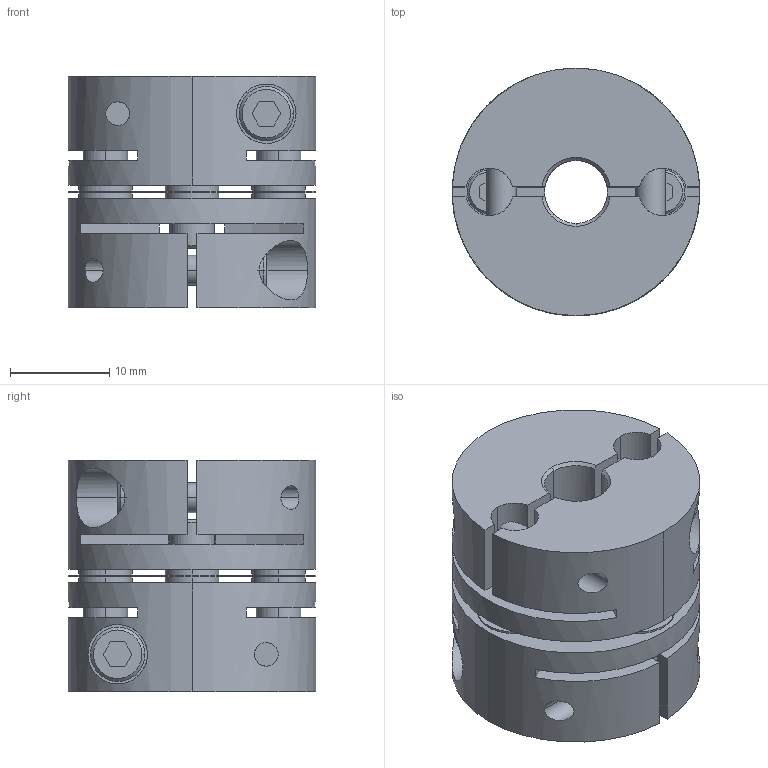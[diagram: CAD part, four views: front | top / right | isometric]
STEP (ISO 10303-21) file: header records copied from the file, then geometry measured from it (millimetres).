
FILE_DESCRIPTION((''),'2;1');
FILE_NAME('LAS-25C-6.35×8.stp','2011-08-10T10:22:42',(''),(''),'AutoCAD STEP 2000i','AutoCAD 2000i',', , ');
FILE_SCHEMA(('CONFIG_CONTROL_DESIGN'));
Length unit declared in the file: millimetre
Products named in the file (5): LAS-25C-6×6; 忣兜1; LA-2502-D06-1; LA-2502-D06; LAS25-ITA
Assembly tree (4 placements, depth 2):
  LAS-25C-6×6
    忣兜1
    LA-2502-D06-1
    LA-2502-D06
    LAS25-ITA
Bounding box: 25 x 25 x 23.4 mm (x, y, z)
Volume: 8616.3 mm3; surface area: 6892.9 mm2
Topology: 1 solids, 1 shells, 244 faces, 648 edges, 424 vertices
Faces by surface type: plane 112, cylinder 104, cone 28
Entity records: 8499 total; most frequent: CARTESIAN_POINT 2121, DIRECTION 1326, ORIENTED_EDGE 1296, EDGE_CURVE 648, AXIS2_PLACEMENT_3D 485, VERTEX_POINT 424, VECTOR 356, LINE 356
